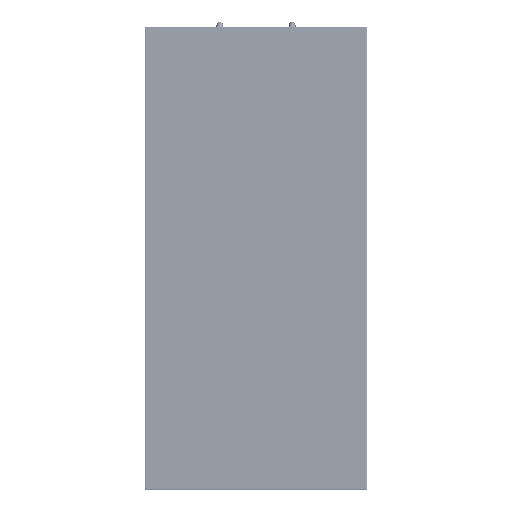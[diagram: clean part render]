
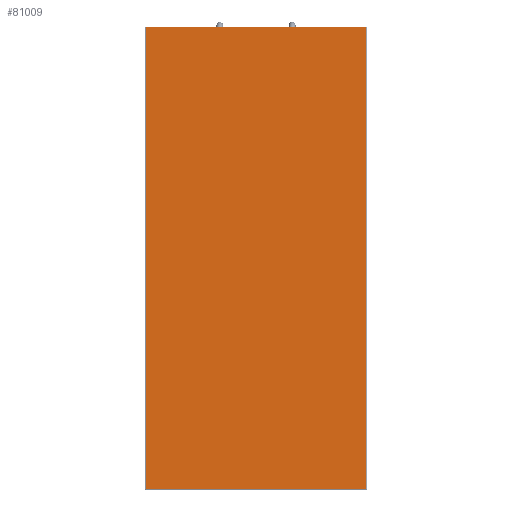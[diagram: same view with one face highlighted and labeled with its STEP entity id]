
A CAD part, top view. The second image highlights one B-rep face of the part: STEP entity #81009.
In plain terms, the highlighted planar face has unit normal (0, 0, 1).
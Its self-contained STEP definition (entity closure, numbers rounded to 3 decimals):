
#5053=PLANE('',#86939);
#8183=FACE_OUTER_BOUND('',#12588,.T.);
#12588=EDGE_LOOP('',(#60240,#60241,#60242,#60243));
#22967=LINE('',#124628,#29301);
#22969=LINE('',#124632,#29303);
#22970=LINE('',#124634,#29304);
#22974=LINE('',#124643,#29308);
#29301=VECTOR('',#100217,10.);
#29303=VECTOR('',#100223,10.);
#29304=VECTOR('',#100226,10.);
#29308=VECTOR('',#100236,10.);
#36093=VERTEX_POINT('',#124604);
#36095=VERTEX_POINT('',#124609);
#36098=VERTEX_POINT('',#124617);
#36099=VERTEX_POINT('',#124621);
#45164=EDGE_CURVE('',#36099,#36098,#22967,.T.);
#45166=EDGE_CURVE('',#36095,#36099,#22969,.T.);
#45167=EDGE_CURVE('',#36098,#36093,#22970,.T.);
#45172=EDGE_CURVE('',#36093,#36095,#22974,.T.);
#60240=ORIENTED_EDGE('',*,*,#45164,.F.);
#60241=ORIENTED_EDGE('',*,*,#45166,.F.);
#60242=ORIENTED_EDGE('',*,*,#45172,.F.);
#60243=ORIENTED_EDGE('',*,*,#45167,.F.);
#81009=ADVANCED_FACE('',(#8183),#5053,.T.);
#86939=AXIS2_PLACEMENT_3D('',#124688,#100281,#100282);
#100217=DIRECTION('',(0.,-1.,0.));
#100223=DIRECTION('',(1.,0.,0.));
#100226=DIRECTION('',(-1.,0.,0.));
#100236=DIRECTION('',(0.,1.,0.));
#100281=DIRECTION('center_axis',(0.,0.,
1.));
#100282=DIRECTION('ref_axis',(0.,1.,0.));
#124604=CARTESIAN_POINT('',(-132.5,-132.5,1003.));
#124609=CARTESIAN_POINT('',(-132.5,422.5,1003.));
#124617=CARTESIAN_POINT('',(132.5,-132.5,1003.));
#124621=CARTESIAN_POINT('',(132.5,422.5,1003.));
#124628=CARTESIAN_POINT('',(132.5,420.,1003.));
#124632=CARTESIAN_POINT('',(-65.,422.5,1003.));
#124634=CARTESIAN_POINT('',(-65.,-132.5,1003.));
#124643=CARTESIAN_POINT('',(-132.5,420.,1003.));
#124688=CARTESIAN_POINT('Origin',(-130.,420.,1003.));
